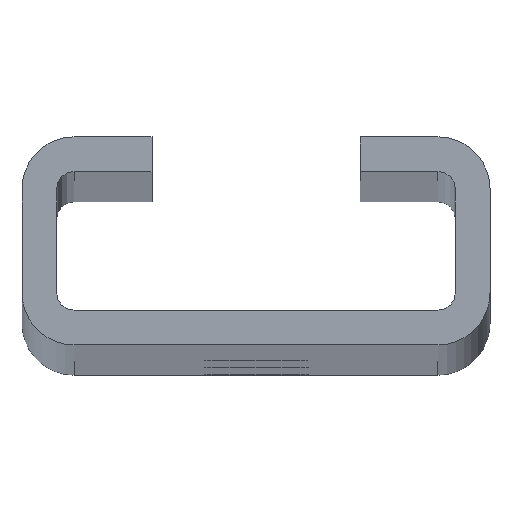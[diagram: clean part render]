
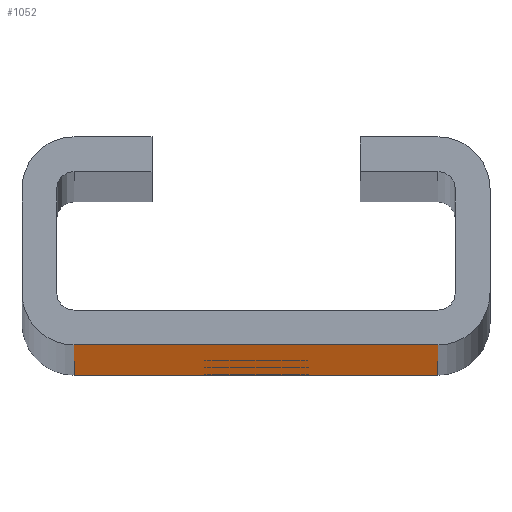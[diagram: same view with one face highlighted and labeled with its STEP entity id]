
A CAD part, top view. The second image highlights one B-rep face of the part: STEP entity #1052.
In plain terms, the highlighted planar face has unit normal (0, -1, 0).
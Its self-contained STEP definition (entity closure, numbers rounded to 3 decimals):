
#7 = LINE ( 'NONE', #505, #536 ) ;
#93 = VERTEX_POINT ( 'NONE', #1244 ) ;
#113 = VERTEX_POINT ( 'NONE', #1248 ) ;
#114 = VERTEX_POINT ( 'NONE', #1246 ) ;
#115 = VERTEX_POINT ( 'NONE', #1233 ) ;
#116 = VERTEX_POINT ( 'NONE', #1241 ) ;
#122 = VERTEX_POINT ( 'NONE', #1225 ) ;
#123 = VERTEX_POINT ( 'NONE', #1224 ) ;
#126 = VERTEX_POINT ( 'NONE', #1217 ) ;
#127 = VERTEX_POINT ( 'NONE', #1214 ) ;
#130 = VERTEX_POINT ( 'NONE', #1209 ) ;
#132 = VERTEX_POINT ( 'NONE', #1204 ) ;
#133 = VERTEX_POINT ( 'NONE', #1203 ) ;
#136 = VERTEX_POINT ( 'NONE', #1199 ) ;
#142 = VERTEX_POINT ( 'NONE', #1186 ) ;
#179 = AXIS2_PLACEMENT_3D ( 'NONE', #467, #465, #464 ) ;
#181 = AXIS2_PLACEMENT_3D ( 'NONE', #479, #478, #477 ) ;
#182 = AXIS2_PLACEMENT_3D ( 'NONE', #483, #482, #480 ) ;
#184 = AXIS2_PLACEMENT_3D ( 'NONE', #492, #491, #490 ) ;
#387 = DIRECTION ( 'NONE',  ( 0., 0., 1. ) ) ;
#388 = DIRECTION ( 'NONE',  ( 0., 1., 0. ) ) ;
#389 = CARTESIAN_POINT ( 'NONE',  ( 3., 0., 1000. ) ) ;
#398 = PLANE ( 'NONE',  #840 ) ;
#448 = DIRECTION ( 'NONE',  ( 0., 0., 1. ) ) ;
#452 = DIRECTION ( 'NONE',  ( 0., 1., 0. ) ) ;
#455 = CARTESIAN_POINT ( 'NONE',  ( 13.5, 0., 970. ) ) ;
#460 = DIRECTION ( 'NONE',  ( 0., 0., 1. ) ) ;
#461 = DIRECTION ( 'NONE',  ( 0., 1., 0. ) ) ;
#462 = CARTESIAN_POINT ( 'NONE',  ( 13.5, 0., 735. ) ) ;
#464 = DIRECTION ( 'NONE',  ( 0., 0., 1. ) ) ;
#465 = DIRECTION ( 'NONE',  ( 0., 1., 0. ) ) ;
#467 = CARTESIAN_POINT ( 'NONE',  ( 13.5, 0., 500. ) ) ;
#468 = DIRECTION ( 'NONE',  ( 1., 0., 0. ) ) ;
#469 = CARTESIAN_POINT ( 'NONE',  ( 3., 0., 1000. ) ) ;
#475 = DIRECTION ( 'NONE',  ( 0., 0., -1. ) ) ;
#476 = CARTESIAN_POINT ( 'NONE',  ( 24., 0., 1000. ) ) ;
#477 = DIRECTION ( 'NONE',  ( 0., 0., 1. ) ) ;
#478 = DIRECTION ( 'NONE',  ( 0., 1., 0. ) ) ;
#479 = CARTESIAN_POINT ( 'NONE',  ( 13.5, 0., 265. ) ) ;
#480 = DIRECTION ( 'NONE',  ( 0., 0., 1. ) ) ;
#482 = DIRECTION ( 'NONE',  ( 0., 1., 0. ) ) ;
#483 = CARTESIAN_POINT ( 'NONE',  ( 13.5, 0., 30. ) ) ;
#484 = DIRECTION ( 'NONE',  ( 1., 0., 0. ) ) ;
#485 = CARTESIAN_POINT ( 'NONE',  ( 3., 0., 0. ) ) ;
#490 = DIRECTION ( 'NONE',  ( 0., 0., 1. ) ) ;
#491 = DIRECTION ( 'NONE',  ( 0., 1., 0. ) ) ;
#492 = CARTESIAN_POINT ( 'NONE',  ( 13.5, 0., 970. ) ) ;
#505 = CARTESIAN_POINT ( 'NONE',  ( 3., 0., 1000. ) ) ;
#514 = DIRECTION ( 'NONE',  ( 0., 0., -1. ) ) ;
#534 = VECTOR ( 'NONE', #484, 1000. ) ;
#536 = VECTOR ( 'NONE', #514, 1000. ) ;
#540 = CIRCLE ( 'NONE', #184, 3. ) ;
#541 = LINE ( 'NONE', #485, #534 ) ;
#545 = LINE ( 'NONE', #476, #558 ) ;
#546 = CIRCLE ( 'NONE', #181, 3. ) ;
#547 = CIRCLE ( 'NONE', #182, 3. ) ;
#553 = VECTOR ( 'NONE', #468, 1000. ) ;
#555 = LINE ( 'NONE', #469, #553 ) ;
#556 = CIRCLE ( 'NONE', #708, 3. ) ;
#557 = CIRCLE ( 'NONE', #179, 3. ) ;
#558 = VECTOR ( 'NONE', #475, 1000. ) ;
#638 = AXIS2_PLACEMENT_3D ( 'NONE', #455, #452, #448 ) ;
#640 = AXIS2_PLACEMENT_3D ( 'NONE', #1085, #1084, #1110 ) ;
#642 = AXIS2_PLACEMENT_3D ( 'NONE', #1097, #1096, #1095 ) ;
#644 = AXIS2_PLACEMENT_3D ( 'NONE', #1116, #1114, #1113 ) ;
#646 = AXIS2_PLACEMENT_3D ( 'NONE', #1122, #1121, #1120 ) ;
#661 = ORIENTED_EDGE ( 'NONE', *, *, #808, .T. ) ;
#662 = ORIENTED_EDGE ( 'NONE', *, *, #809, .F. ) ;
#663 = ORIENTED_EDGE ( 'NONE', *, *, #813, .F. ) ;
#664 = ORIENTED_EDGE ( 'NONE', *, *, #801, .T. ) ;
#665 = ORIENTED_EDGE ( 'NONE', *, *, #811, .T. ) ;
#666 = ORIENTED_EDGE ( 'NONE', *, *, #775, .T. ) ;
#667 = ORIENTED_EDGE ( 'NONE', *, *, #807, .T. ) ;
#668 = ORIENTED_EDGE ( 'NONE', *, *, #763, .T. ) ;
#669 = ORIENTED_EDGE ( 'NONE', *, *, #806, .T. ) ;
#670 = ORIENTED_EDGE ( 'NONE', *, *, #764, .T. ) ;
#697 = ORIENTED_EDGE ( 'NONE', *, *, #779, .T. ) ;
#698 = ORIENTED_EDGE ( 'NONE', *, *, #812, .T. ) ;
#708 = AXIS2_PLACEMENT_3D ( 'NONE', #462, #461, #460 ) ;
#763 = EDGE_CURVE ( 'NONE', #127, #114, #1280, .T. ) ;
#764 = EDGE_CURVE ( 'NONE', #130, #122, #1278, .T. ) ;
#775 = EDGE_CURVE ( 'NONE', #113, #126, #1285, .T. ) ;
#779 = EDGE_CURVE ( 'NONE', #123, #93, #1287, .T. ) ;
#783 = EDGE_CURVE ( 'NONE', #132, #133, #1291, .T. ) ;
#801 = EDGE_CURVE ( 'NONE', #115, #142, #7, .T. ) ;
#804 = EDGE_CURVE ( 'NONE', #133, #132, #540, .T. ) ;
#806 = EDGE_CURVE ( 'NONE', #122, #130, #547, .T. ) ;
#807 = EDGE_CURVE ( 'NONE', #114, #127, #546, .T. ) ;
#808 = EDGE_CURVE ( 'NONE', #142, #136, #541, .T. ) ;
#809 = EDGE_CURVE ( 'NONE', #116, #136, #545, .T. ) ;
#811 = EDGE_CURVE ( 'NONE', #126, #113, #557, .T. ) ;
#812 = EDGE_CURVE ( 'NONE', #93, #123, #556, .T. ) ;
#813 = EDGE_CURVE ( 'NONE', #115, #116, #555, .T. ) ;
#824 = FACE_BOUND ( 'NONE', #1413, .T. ) ;
#825 = FACE_BOUND ( 'NONE', #1389, .T. ) ;
#826 = FACE_OUTER_BOUND ( 'NONE', #1412, .T. ) ;
#827 = FACE_BOUND ( 'NONE', #1410, .T. ) ;
#830 = FACE_BOUND ( 'NONE', #1398, .T. ) ;
#831 = FACE_BOUND ( 'NONE', #1411, .T. ) ;
#840 = AXIS2_PLACEMENT_3D ( 'NONE', #389, #388, #387 ) ;
#861 = ORIENTED_EDGE ( 'NONE', *, *, #783, .T. ) ;
#866 = ORIENTED_EDGE ( 'NONE', *, *, #804, .T. ) ;
#1052 = ADVANCED_FACE ( 'NONE', ( #830, #824, #826, #831, #827, #825 ), #398, .F. ) ;
#1084 = DIRECTION ( 'NONE',  ( 0., 1., 0. ) ) ;
#1085 = CARTESIAN_POINT ( 'NONE',  ( 13.5, 0., 735. ) ) ;
#1095 = DIRECTION ( 'NONE',  ( 0., 0., 1. ) ) ;
#1096 = DIRECTION ( 'NONE',  ( 0., 1., 0. ) ) ;
#1097 = CARTESIAN_POINT ( 'NONE',  ( 13.5, 0., 500. ) ) ;
#1110 = DIRECTION ( 'NONE',  ( 0., 0., 1. ) ) ;
#1113 = DIRECTION ( 'NONE',  ( 0., 0., 1. ) ) ;
#1114 = DIRECTION ( 'NONE',  ( 0., 1., 0. ) ) ;
#1116 = CARTESIAN_POINT ( 'NONE',  ( 13.5, 0., 30. ) ) ;
#1120 = DIRECTION ( 'NONE',  ( 0., 0., 1. ) ) ;
#1121 = DIRECTION ( 'NONE',  ( 0., 1., 0. ) ) ;
#1122 = CARTESIAN_POINT ( 'NONE',  ( 13.5, 0., 265. ) ) ;
#1186 = CARTESIAN_POINT ( 'NONE',  ( 3., 0., 0. ) ) ;
#1199 = CARTESIAN_POINT ( 'NONE',  ( 24., 0., 0. ) ) ;
#1203 = CARTESIAN_POINT ( 'NONE',  ( 10.5, 0., 970. ) ) ;
#1204 = CARTESIAN_POINT ( 'NONE',  ( 16.5, 0., 970. ) ) ;
#1209 = CARTESIAN_POINT ( 'NONE',  ( 16.5, 0., 30. ) ) ;
#1214 = CARTESIAN_POINT ( 'NONE',  ( 16.5, 0., 265. ) ) ;
#1217 = CARTESIAN_POINT ( 'NONE',  ( 10.5, 0., 500. ) ) ;
#1224 = CARTESIAN_POINT ( 'NONE',  ( 16.5, 0., 735. ) ) ;
#1225 = CARTESIAN_POINT ( 'NONE',  ( 10.5, 0., 30. ) ) ;
#1233 = CARTESIAN_POINT ( 'NONE',  ( 3., 0., 1000. ) ) ;
#1241 = CARTESIAN_POINT ( 'NONE',  ( 24., 0., 1000. ) ) ;
#1244 = CARTESIAN_POINT ( 'NONE',  ( 10.5, 0., 735. ) ) ;
#1246 = CARTESIAN_POINT ( 'NONE',  ( 10.5, 0., 265. ) ) ;
#1248 = CARTESIAN_POINT ( 'NONE',  ( 16.5, 0., 500. ) ) ;
#1278 = CIRCLE ( 'NONE', #644, 3. ) ;
#1280 = CIRCLE ( 'NONE', #646, 3. ) ;
#1285 = CIRCLE ( 'NONE', #642, 3. ) ;
#1287 = CIRCLE ( 'NONE', #640, 3. ) ;
#1291 = CIRCLE ( 'NONE', #638, 3. ) ;
#1389 = EDGE_LOOP ( 'NONE', ( #669, #670 ) ) ;
#1398 = EDGE_LOOP ( 'NONE', ( #698, #697 ) ) ;
#1410 = EDGE_LOOP ( 'NONE', ( #667, #668 ) ) ;
#1411 = EDGE_LOOP ( 'NONE', ( #665, #666 ) ) ;
#1412 = EDGE_LOOP ( 'NONE', ( #661, #662, #663, #664 ) ) ;
#1413 = EDGE_LOOP ( 'NONE', ( #866, #861 ) ) ;
